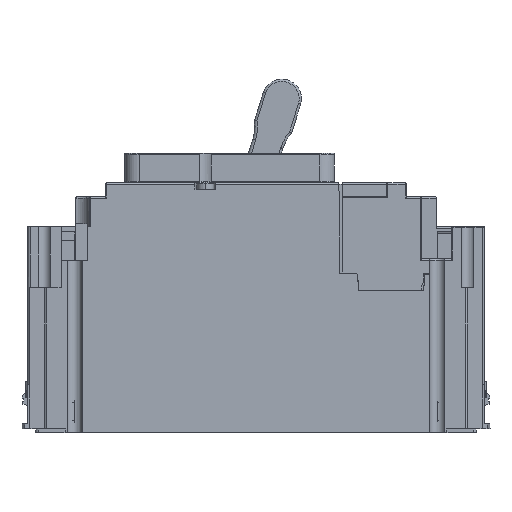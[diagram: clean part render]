
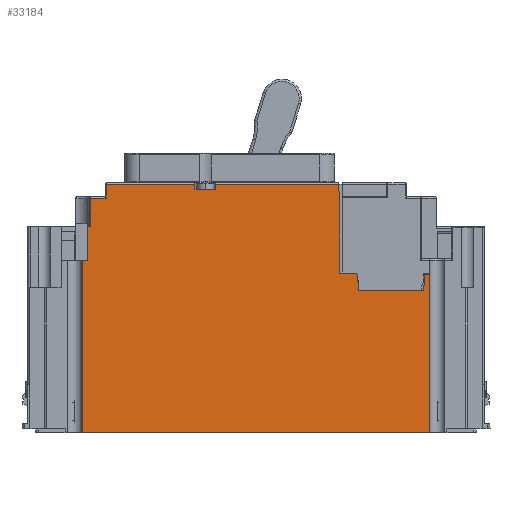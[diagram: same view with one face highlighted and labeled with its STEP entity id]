
A CAD part, left-side view. The second image highlights one B-rep face of the part: STEP entity #33184.
In plain terms, the highlighted planar face has unit normal (-1, 0, 0).
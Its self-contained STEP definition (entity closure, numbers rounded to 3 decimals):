
#1410=DIRECTION('',(0.,0.,-1.));
#1411=VECTOR('',#1410,59.35);
#1412=CARTESIAN_POINT('',(0.,140.524,84.));
#1413=LINE('',#1412,#1411);
#3822=DIRECTION('',(0.,-1.,0.));
#3823=VECTOR('',#3822,5.702);
#3824=CARTESIAN_POINT('',(0.,51.82,79.55));
#3825=LINE('',#3824,#3823);
#3826=DIRECTION('',(0.,-0.628,-0.778));
#3827=VECTOR('',#3826,0.667);
#3828=CARTESIAN_POINT('',(0.,46.118,79.55));
#3829=LINE('',#3828,#3827);
#3830=DIRECTION('',(0.,-0.087,-0.996));
#3831=VECTOR('',#3830,5.502);
#3832=CARTESIAN_POINT('',(0.,45.7,79.031));
#3833=LINE('',#3832,#3831);
#3834=DIRECTION('',(0.,-0.017,1.));
#3835=VECTOR('',#3834,1.8);
#3836=CARTESIAN_POINT('',(0.,22.771,73.55));
#3837=LINE('',#3836,#3835);
#3838=DIRECTION('',(0.,-1.,0.));
#3839=VECTOR('',#3838,0.123);
#3840=CARTESIAN_POINT('',(0.,22.74,75.35));
#3841=LINE('',#3840,#3839);
#3842=DIRECTION('',(0.,0.,1.));
#3843=VECTOR('',#3842,4.);
#3844=CARTESIAN_POINT('',(0.,22.617,75.35));
#3845=LINE('',#3844,#3843);
#3846=DIRECTION('',(0.,1.,0.));
#3847=VECTOR('',#3846,1.902);
#3848=CARTESIAN_POINT('',(0.,20.716,79.35));
#3849=LINE('',#3848,#3847);
#3850=DIRECTION('',(0.,1.,0.));
#3851=VECTOR('',#3850,119.809);
#3852=CARTESIAN_POINT('',(0.,20.716,24.65));
#3853=LINE('',#3852,#3851);
#3854=DIRECTION('',(0.,0.,1.));
#3855=VECTOR('',#3854,11.75);
#3856=CARTESIAN_POINT('',(0.,138.72,84.));
#3857=LINE('',#3856,#3855);
#3858=DIRECTION('',(0.,-1.,0.));
#3859=VECTOR('',#3858,1.075);
#3860=CARTESIAN_POINT('',(0.,138.72,95.75));
#3861=LINE('',#3860,#3859);
#3862=DIRECTION('',(0.,-1.,0.));
#3863=VECTOR('',#3862,7.17);
#3864=CARTESIAN_POINT('',(0.,101.638,108.6));
#3865=LINE('',#3864,#3863);
#3866=DIRECTION('',(0.,0.,1.));
#3867=VECTOR('',#3866,1.7);
#3868=CARTESIAN_POINT('',(0.,94.468,108.6));
#3869=LINE('',#3868,#3867);
#3870=DIRECTION('',(0.,-0.018,-1.));
#3871=VECTOR('',#3870,13.957);
#3872=CARTESIAN_POINT('',(0.,52.066,110.304));
#3873=LINE('',#3872,#3871);
#3886=DIRECTION('',(0.,1.,0.));
#3887=VECTOR('',#3886,42.402);
#3888=CARTESIAN_POINT('',(0.,52.066,110.304));
#3889=LINE('',#3888,#3887);
#3890=CARTESIAN_POINT('',(0.,94.468,110.3));
#4249=DIRECTION('',(0.,0.,1.));
#4250=VECTOR('',#4249,54.7);
#4251=CARTESIAN_POINT('',(0.,20.716,24.65));
#4252=LINE('',#4251,#4250);
#14435=DIRECTION('',(0.,0.,1.));
#14436=VECTOR('',#14435,1.7);
#14437=CARTESIAN_POINT('',(0.,101.638,108.6));
#14438=LINE('',#14437,#14436);
#14439=DIRECTION('',(0.,1.,0.));
#14440=VECTOR('',#14439,30.385);
#14441=CARTESIAN_POINT('',(0.,101.638,110.3));
#14442=LINE('',#14441,#14440);
#14493=DIRECTION('',(0.,0.,-1.));
#14494=VECTOR('',#14493,4.75);
#14495=CARTESIAN_POINT('',(0.,132.023,110.3));
#14496=LINE('',#14495,#14494);
#14513=DIRECTION('',(0.,1.,0.));
#14514=VECTOR('',#14513,5.622);
#14515=CARTESIAN_POINT('',(0.,132.023,105.55));
#14516=LINE('',#14515,#14514);
#14536=DIRECTION('',(0.,0.,-1.));
#14537=VECTOR('',#14536,9.8);
#14538=CARTESIAN_POINT('',(0.,137.645,105.55));
#14539=LINE('',#14538,#14537);
#14613=DIRECTION('',(0.,1.,0.));
#14614=VECTOR('',#14613,1.804);
#14615=CARTESIAN_POINT('',(0.,138.72,84.));
#14616=LINE('',#14615,#14614);
#20433=DIRECTION('',(0.,1.,0.));
#20434=VECTOR('',#20433,22.449);
#20435=CARTESIAN_POINT('',(0.,22.771,73.55));
#20436=LINE('',#20435,#20434);
#20457=DIRECTION('',(0.,0.,1.));
#20458=VECTOR('',#20457,16.8);
#20459=CARTESIAN_POINT('',(0.,51.82,79.55));
#20460=LINE('',#20459,#20458);
#23880=CARTESIAN_POINT('',(0.,140.524,24.65));
#23882=VERTEX_POINT('',#23880);
#23883=CARTESIAN_POINT('',(0.,20.716,24.65));
#23884=VERTEX_POINT('',#23883);
#24202=CARTESIAN_POINT('',(0.,140.524,84.));
#24203=VERTEX_POINT('',#24202);
#24558=CARTESIAN_POINT('',(0.,138.72,84.));
#24559=VERTEX_POINT('',#24558);
#24953=VERTEX_POINT('',#3890);
#24955=CARTESIAN_POINT('',(0.,94.468,108.6));
#24956=VERTEX_POINT('',#24955);
#24961=CARTESIAN_POINT('',(0.,137.645,105.55));
#24962=CARTESIAN_POINT('',(0.,137.645,95.75));
#24963=VERTEX_POINT('',#24961);
#24964=VERTEX_POINT('',#24962);
#24965=CARTESIAN_POINT('',(0.,132.023,105.55));
#24966=VERTEX_POINT('',#24965);
#24967=CARTESIAN_POINT('',(0.,132.023,110.3));
#24968=VERTEX_POINT('',#24967);
#24969=CARTESIAN_POINT('',(0.,101.638,110.3));
#24970=VERTEX_POINT('',#24969);
#24971=CARTESIAN_POINT('',(0.,101.638,108.6));
#24972=VERTEX_POINT('',#24971);
#24979=CARTESIAN_POINT('',(0.,138.72,95.75));
#24980=VERTEX_POINT('',#24979);
#28661=CARTESIAN_POINT('',(0.,52.066,
110.304));
#28662=CARTESIAN_POINT('',(0.,51.82,96.35));
#28663=VERTEX_POINT('',#28661);
#28664=VERTEX_POINT('',#28662);
#28718=CARTESIAN_POINT('',(0.,51.82,79.55));
#28719=CARTESIAN_POINT('',(0.,46.118,79.55));
#28720=VERTEX_POINT('',#28718);
#28721=VERTEX_POINT('',#28719);
#28722=CARTESIAN_POINT('',(0.,45.7,79.031));
#28723=VERTEX_POINT('',#28722);
#28724=CARTESIAN_POINT('',(0.,45.22,73.55));
#28725=VERTEX_POINT('',#28724);
#28726=CARTESIAN_POINT('',(0.,22.771,73.55));
#28727=CARTESIAN_POINT('',(0.,22.74,75.35));
#28728=VERTEX_POINT('',#28726);
#28729=VERTEX_POINT('',#28727);
#28730=CARTESIAN_POINT('',(0.,22.617,75.35));
#28731=VERTEX_POINT('',#28730);
#28732=CARTESIAN_POINT('',(0.,22.617,79.35));
#28733=VERTEX_POINT('',#28732);
#28734=CARTESIAN_POINT('',(0.,20.716,79.35));
#28735=VERTEX_POINT('',#28734);
#33131=CARTESIAN_POINT('',(0.,181.835,0.));
#33132=DIRECTION('',(-1.,0.,0.));
#33133=DIRECTION('',(0.,-1.,0.));
#33134=AXIS2_PLACEMENT_3D('',#33131,#33132,#33133);
#33135=PLANE('',#33134);
#33137=ORIENTED_EDGE('',*,*,#33136,.F.);
#33139=ORIENTED_EDGE('',*,*,#33138,.T.);
#33141=ORIENTED_EDGE('',*,*,#33140,.T.);
#33143=ORIENTED_EDGE('',*,*,#33142,.T.);
#33145=ORIENTED_EDGE('',*,*,#33144,.F.);
#33147=ORIENTED_EDGE('',*,*,#33146,.T.);
#33149=ORIENTED_EDGE('',*,*,#33148,.T.);
#33151=ORIENTED_EDGE('',*,*,#33150,.T.);
#33153=ORIENTED_EDGE('',*,*,#33152,.F.);
#33155=ORIENTED_EDGE('',*,*,#33154,.F.);
#33156=ORIENTED_EDGE('',*,*,#30014,.T.);
#33157=ORIENTED_EDGE('',*,*,#30282,.F.);
#33159=ORIENTED_EDGE('',*,*,#33158,.F.);
#33161=ORIENTED_EDGE('',*,*,#33160,.T.);
#33163=ORIENTED_EDGE('',*,*,#33162,.T.);
#33165=ORIENTED_EDGE('',*,*,#33164,.F.);
#33167=ORIENTED_EDGE('',*,*,#33166,.F.);
#33169=ORIENTED_EDGE('',*,*,#33168,.F.);
#33171=ORIENTED_EDGE('',*,*,#33170,.F.);
#33173=ORIENTED_EDGE('',*,*,#33172,.F.);
#33175=ORIENTED_EDGE('',*,*,#33174,.T.);
#33177=ORIENTED_EDGE('',*,*,#33176,.T.);
#33179=ORIENTED_EDGE('',*,*,#33178,.F.);
#33181=ORIENTED_EDGE('',*,*,#33180,.T.);
#33182=EDGE_LOOP('',(#33137,#33139,#33141,#33143,#33145,#33147,#33149,#33151,
#33153,#33155,#33156,#33157,#33159,#33161,#33163,#33165,#33167,#33169,#33171,
#33173,#33175,#33177,#33179,#33181));
#33183=FACE_OUTER_BOUND('',#33182,.F.);
#33184=ADVANCED_FACE('',(#33183),#33135,.T.);
#30014=EDGE_CURVE('',#23884,#23882,#3853,.T.);
#30282=EDGE_CURVE('',#24203,#23882,#1413,.T.);
#33136=EDGE_CURVE('',#28720,#28664,#20460,.T.);
#33138=EDGE_CURVE('',#28720,#28721,#3825,.T.);
#33140=EDGE_CURVE('',#28721,#28723,#3829,.T.);
#33142=EDGE_CURVE('',#28723,#28725,#3833,.T.);
#33144=EDGE_CURVE('',#28728,#28725,#20436,.T.);
#33146=EDGE_CURVE('',#28728,#28729,#3837,.T.);
#33148=EDGE_CURVE('',#28729,#28731,#3841,.T.);
#33150=EDGE_CURVE('',#28731,#28733,#3845,.T.);
#33152=EDGE_CURVE('',#28735,#28733,#3849,.T.);
#33154=EDGE_CURVE('',#23884,#28735,#4252,.T.);
#33158=EDGE_CURVE('',#24559,#24203,#14616,.T.);
#33160=EDGE_CURVE('',#24559,#24980,#3857,.T.);
#33162=EDGE_CURVE('',#24980,#24964,#3861,.T.);
#33164=EDGE_CURVE('',#24963,#24964,#14539,.T.);
#33166=EDGE_CURVE('',#24966,#24963,#14516,.T.);
#33168=EDGE_CURVE('',#24968,#24966,#14496,.T.);
#33170=EDGE_CURVE('',#24970,#24968,#14442,.T.);
#33172=EDGE_CURVE('',#24972,#24970,#14438,.T.);
#33174=EDGE_CURVE('',#24972,#24956,#3865,.T.);
#33176=EDGE_CURVE('',#24956,#24953,#3869,.T.);
#33178=EDGE_CURVE('',#28663,#24953,#3889,.T.);
#33180=EDGE_CURVE('',#28663,#28664,#3873,.T.);
